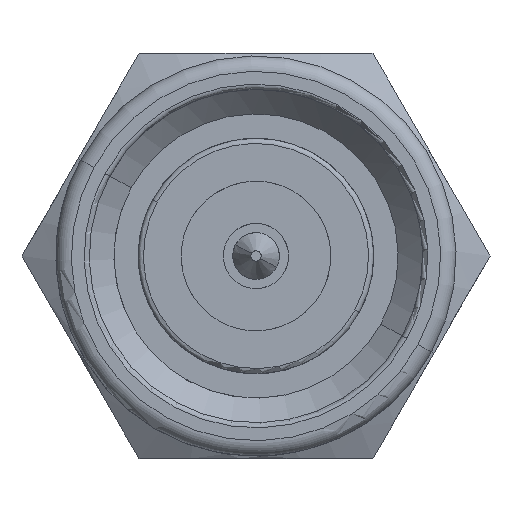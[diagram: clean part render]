
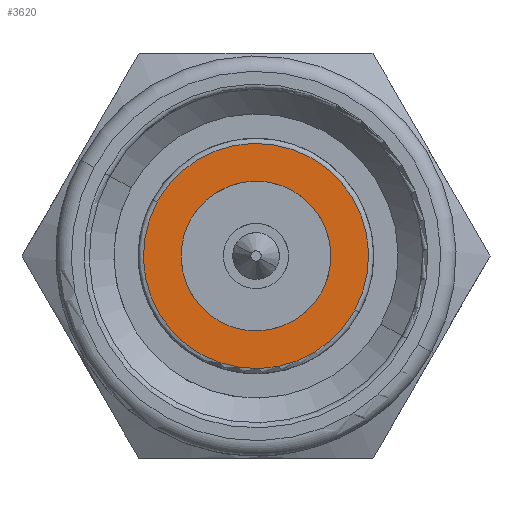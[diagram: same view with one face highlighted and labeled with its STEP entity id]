
A CAD part, left-side view. The second image highlights one B-rep face of the part: STEP entity #3620.
In plain terms, the highlighted planar face has unit normal (-1, 0, 0).
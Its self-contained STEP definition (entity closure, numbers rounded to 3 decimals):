
#3518=CARTESIAN_POINT('Vertex',(3.05,-1.926,-1.052)) ;
#3525=CARTESIAN_POINT('Vertex',(3.05,1.926,1.052)) ;
#3528=CARTESIAN_POINT('Axis2P3D Location',(3.05,0.,0.)) ;
#3545=CARTESIAN_POINT('Axis2P3D Location',(3.05,0.,0.)) ;
#3557=CARTESIAN_POINT('Axis2P3D Location',(3.05,-0.455,0.)) ;
#3567=CARTESIAN_POINT('Control Point',(3.05,1.281,0.7)) ;
#3568=CARTESIAN_POINT('Control Point',(3.05,1.196,0.856)) ;
#3569=CARTESIAN_POINT('Control Point',(3.05,1.087,0.999)) ;
#3570=CARTESIAN_POINT('Control Point',(3.05,0.957,1.124)) ;
#3571=CARTESIAN_POINT('Control Point',(3.05,0.664,1.331)) ;
#3572=CARTESIAN_POINT('Control Point',(3.05,0.322,1.441)) ;
#3573=CARTESIAN_POINT('Control Point',(3.05,0.144,1.469)) ;
#3574=CARTESIAN_POINT('Control Point',(3.05,-0.216,1.471)) ;
#3575=CARTESIAN_POINT('Control Point',(3.05,-0.559,1.366)) ;
#3576=CARTESIAN_POINT('Control Point',(3.05,-0.722,1.288)) ;
#3577=CARTESIAN_POINT('Control Point',(3.05,-1.018,1.084)) ;
#3578=CARTESIAN_POINT('Control Point',(3.05,-1.24,0.802)) ;
#3579=CARTESIAN_POINT('Control Point',(3.05,-1.328,0.645)) ;
#3580=CARTESIAN_POINT('Control Point',(3.05,-1.455,0.308)) ;
#3581=CARTESIAN_POINT('Control Point',(3.05,-1.476,-0.05)) ;
#3582=CARTESIAN_POINT('Control Point',(3.05,-1.458,-0.23)) ;
#3583=CARTESIAN_POINT('Control Point',(3.05,-1.407,-0.433)) ;
#3584=CARTESIAN_POINT('Control Point',(3.05,-1.322,-0.621)) ;
#3585=CARTESIAN_POINT('Control Point',(3.05,-1.309,-0.648)) ;
#3586=CARTESIAN_POINT('Control Point',(3.05,-1.295,-0.674)) ;
#3587=CARTESIAN_POINT('Control Point',(3.05,-1.281,-0.7)) ;
#3588=CARTESIAN_POINT('Vertex',(3.05,1.281,0.7)) ;
#3590=CARTESIAN_POINT('Vertex',(3.05,-1.281,-0.7)) ;
#3594=CARTESIAN_POINT('Control Point',(3.05,-1.281,-0.7)) ;
#3595=CARTESIAN_POINT('Control Point',(3.05,-1.196,-0.856)) ;
#3596=CARTESIAN_POINT('Control Point',(3.05,-1.087,-0.999)) ;
#3597=CARTESIAN_POINT('Control Point',(3.05,-0.957,-1.124)) ;
#3598=CARTESIAN_POINT('Control Point',(3.05,-0.664,-1.331)) ;
#3599=CARTESIAN_POINT('Control Point',(3.05,-0.322,-1.441)) ;
#3600=CARTESIAN_POINT('Control Point',(3.05,-0.144,-1.469)) ;
#3601=CARTESIAN_POINT('Control Point',(3.05,0.216,-1.471)) ;
#3602=CARTESIAN_POINT('Control Point',(3.05,0.559,-1.366)) ;
#3603=CARTESIAN_POINT('Control Point',(3.05,0.722,-1.288)) ;
#3604=CARTESIAN_POINT('Control Point',(3.05,1.018,-1.084)) ;
#3605=CARTESIAN_POINT('Control Point',(3.05,1.24,-0.802)) ;
#3606=CARTESIAN_POINT('Control Point',(3.05,1.328,-0.645)) ;
#3607=CARTESIAN_POINT('Control Point',(3.05,1.455,-0.308)) ;
#3608=CARTESIAN_POINT('Control Point',(3.05,1.476,0.05)) ;
#3609=CARTESIAN_POINT('Control Point',(3.05,1.458,0.23)) ;
#3610=CARTESIAN_POINT('Control Point',(3.05,1.407,0.433)) ;
#3611=CARTESIAN_POINT('Control Point',(3.05,1.322,0.621)) ;
#3612=CARTESIAN_POINT('Control Point',(3.05,1.309,0.648)) ;
#3613=CARTESIAN_POINT('Control Point',(3.05,1.295,0.674)) ;
#3614=CARTESIAN_POINT('Control Point',(3.05,1.281,0.7)) ;
#3529=DIRECTION('Axis2P3D Direction',(1.,0.,0.)) ;
#3546=DIRECTION('Axis2P3D Direction',(1.,0.,0.)) ;
#3558=DIRECTION('Axis2P3D Direction',(1.,0.,0.)) ;
#3559=DIRECTION('Axis2P3D XDirection',(0.,1.,0.)) ;
#3530=AXIS2_PLACEMENT_3D('Circle Axis2P3D',#3528,#3529,$) ;
#3547=AXIS2_PLACEMENT_3D('Circle Axis2P3D',#3545,#3546,$) ;
#3560=AXIS2_PLACEMENT_3D('Plane Axis2P3D',#3557,#3558,#3559) ;
#3563=ORIENTED_EDGE('',*,*,#3549,.F.) ;
#3564=ORIENTED_EDGE('',*,*,#3532,.F.) ;
#3617=ORIENTED_EDGE('',*,*,#3592,.T.) ;
#3618=ORIENTED_EDGE('',*,*,#3615,.T.) ;
#3619=FACE_BOUND('',#3616,.T.) ;
#3620=ADVANCED_FACE('',(#3565,#3619),#3561,.F.) ;
#3566=B_SPLINE_CURVE_WITH_KNOTS('',5,(#3567,#3568,#3569,#3570,#3571,#3572,#3573,#3574,#3575,#3576,#3577,#3578,#3579,#3580,#3581,#3582,#3583,#3584,#3585,#3586,#3587),.UNSPECIFIED.,.F.,.U.,(6,3,3,3,3,3,6),(0.,1.256,2.511,3.767,5.023,6.278,6.486),.UNSPECIFIED.) ;
#3593=B_SPLINE_CURVE_WITH_KNOTS('',5,(#3594,#3595,#3596,#3597,#3598,#3599,#3600,#3601,#3602,#3603,#3604,#3605,#3606,#3607,#3608,#3609,#3610,#3611,#3612,#3613,#3614),.UNSPECIFIED.,.F.,.U.,(6,3,3,3,3,3,6),(0.,1.256,2.511,3.767,5.023,6.278,6.486),.UNSPECIFIED.) ;
#3531=CIRCLE('generated circle',#3530,2.195) ;
#3548=CIRCLE('generated circle',#3547,2.195) ;
#3532=EDGE_CURVE('',#3526,#3519,#3531,.T.) ;
#3549=EDGE_CURVE('',#3519,#3526,#3548,.T.) ;
#3592=EDGE_CURVE('',#3589,#3591,#3566,.T.) ;
#3615=EDGE_CURVE('',#3591,#3589,#3593,.T.) ;
#3562=EDGE_LOOP('',(#3563,#3564)) ;
#3616=EDGE_LOOP('',(#3617,#3618)) ;
#3565=FACE_OUTER_BOUND('',#3562,.T.) ;
#3561=PLANE('Plane',#3560) ;
#3519=VERTEX_POINT('',#3518) ;
#3526=VERTEX_POINT('',#3525) ;
#3589=VERTEX_POINT('',#3588) ;
#3591=VERTEX_POINT('',#3590) ;
